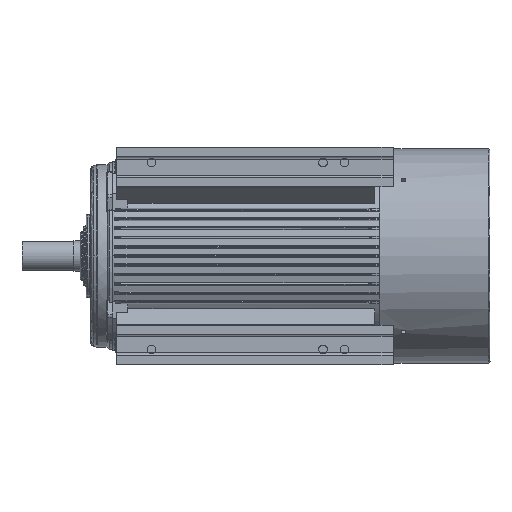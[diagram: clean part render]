
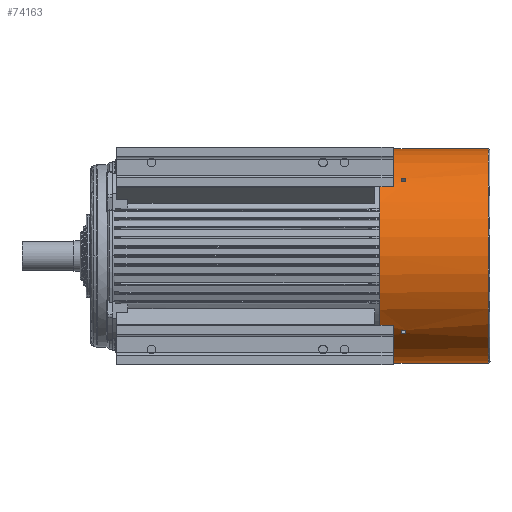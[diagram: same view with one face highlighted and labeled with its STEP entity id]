
A CAD part, front view. The second image highlights one B-rep face of the part: STEP entity #74163.
In plain terms, the highlighted cylindrical face has radius 350 mm (diameter 700 mm), a partial arc.
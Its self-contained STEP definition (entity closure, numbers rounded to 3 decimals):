
#73819=CARTESIAN_POINT('',(0.,0.,5.));
#73820=DIRECTION('',(0.,0.,-1.));
#73821=DIRECTION('',(1.,0.,0.));
#73822=AXIS2_PLACEMENT_3D('',#73819,#73820,#73821);
#73839=DIRECTION('',(0.,0.,-1.));
#73840=VECTOR('',#73839,355.);
#73841=CARTESIAN_POINT('',(-350.,0.,360.));
#73842=LINE('',#73841,#73840);
#73843=DIRECTION('',(0.,0.,-1.));
#73844=VECTOR('',#73843,15.);
#73845=CARTESIAN_POINT('',(-242.127,-252.734,290.));
#73846=LINE('',#73845,#73844);
#73847=DIRECTION('',(0.,0.,1.));
#73848=VECTOR('',#73847,15.);
#73849=CARTESIAN_POINT('',(-252.734,-242.127,275.));
#73850=LINE('',#73849,#73848);
#73851=DIRECTION('',(0.,0.,-1.));
#73852=VECTOR('',#73851,15.);
#73853=CARTESIAN_POINT('',(252.734,-242.127,290.));
#73854=LINE('',#73853,#73852);
#73855=DIRECTION('',(0.,0.,1.));
#73856=VECTOR('',#73855,15.);
#73857=CARTESIAN_POINT('',(242.127,-252.734,275.));
#73858=LINE('',#73857,#73856);
#73859=DIRECTION('',(0.,0.,-1.));
#73860=VECTOR('',#73859,355.);
#73861=CARTESIAN_POINT('',(350.,0.,360.));
#73862=LINE('',#73861,#73860);
#73884=CARTESIAN_POINT('',(0.,0.,360.));
#73885=DIRECTION('',(0.,0.,1.));
#73886=DIRECTION('',(-1.,0.,0.));
#73887=AXIS2_PLACEMENT_3D('',#73884,#73885,#73886);
#73904=CARTESIAN_POINT('',(0.,0.,
5.));
#73905=DIRECTION('',(0.,0.,-1.));
#73906=DIRECTION('',(-1.,-0.008,0.));
#73907=AXIS2_PLACEMENT_3D('',#73904,#73905,#73906);
#73927=CARTESIAN_POINT('',(0.,0.,275.));
#73928=DIRECTION('',(0.,0.,1.));
#73929=DIRECTION('',(-0.722,-0.692,0.));
#73930=AXIS2_PLACEMENT_3D('',#73927,#73928,#73929);
#73966=CARTESIAN_POINT('',(0.,0.,275.));
#73967=DIRECTION('',(0.,0.,1.));
#73968=DIRECTION('',(0.692,-0.722,0.));
#73969=AXIS2_PLACEMENT_3D('',#73966,#73967,#73968);
#73983=CARTESIAN_POINT('',(0.,0.,290.));
#73984=DIRECTION('',(0.,0.,-1.));
#73985=DIRECTION('',(-0.692,-0.722,0.));
#73986=AXIS2_PLACEMENT_3D('',#73983,#73984,#73985);
#73996=CARTESIAN_POINT('',(0.,0.,290.));
#73997=DIRECTION('',(0.,0.,-1.));
#73998=DIRECTION('',(0.722,-0.692,0.));
#73999=AXIS2_PLACEMENT_3D('',#73996,#73997,#73998);
#74040=CARTESIAN_POINT('',(-349.99,-2.674,5.));
#74042=VERTEX_POINT('',#74040);
#74043=CARTESIAN_POINT('',(350.,0.,5.));
#74044=VERTEX_POINT('',#74043);
#74067=CARTESIAN_POINT('',(-350.,0.,5.));
#74068=VERTEX_POINT('',#74067);
#74069=CARTESIAN_POINT('',(-350.,0.,360.));
#74070=VERTEX_POINT('',#74069);
#74071=CARTESIAN_POINT('',(350.,0.,360.));
#74072=VERTEX_POINT('',#74071);
#74073=CARTESIAN_POINT('',(-242.127,-252.734,290.));
#74074=CARTESIAN_POINT('',(-242.127,-252.734,275.));
#74075=VERTEX_POINT('',#74073);
#74076=VERTEX_POINT('',#74074);
#74077=CARTESIAN_POINT('',(-252.734,-242.127,275.));
#74078=VERTEX_POINT('',#74077);
#74079=CARTESIAN_POINT('',(-252.734,-242.127,290.));
#74080=VERTEX_POINT('',#74079);
#74081=CARTESIAN_POINT('',(252.734,-242.127,290.));
#74082=CARTESIAN_POINT('',(252.734,-242.127,275.));
#74083=VERTEX_POINT('',#74081);
#74084=VERTEX_POINT('',#74082);
#74085=CARTESIAN_POINT('',(242.127,-252.734,275.));
#74086=VERTEX_POINT('',#74085);
#74087=CARTESIAN_POINT('',(242.127,-252.734,290.));
#74088=VERTEX_POINT('',#74087);
#74127=CARTESIAN_POINT('',(0.,0.,0.));
#74128=DIRECTION('',(0.,0.,1.));
#74129=DIRECTION('',(1.,0.,0.));
#74130=AXIS2_PLACEMENT_3D('',#74127,#74128,#74129);
#74131=CYLINDRICAL_SURFACE('',#74130,350.);
#74133=ORIENTED_EDGE('',*,*,#74132,.F.);
#74135=ORIENTED_EDGE('',*,*,#74134,.T.);
#74137=ORIENTED_EDGE('',*,*,#74136,.T.);
#74138=ORIENTED_EDGE('',*,*,#74112,.T.);
#74140=ORIENTED_EDGE('',*,*,#74139,.T.);
#74141=EDGE_LOOP('',(#74133,#74135,#74137,#74138,#74140));
#74142=FACE_OUTER_BOUND('',#74141,.F.);
#74144=ORIENTED_EDGE('',*,*,#74143,.F.);
#74146=ORIENTED_EDGE('',*,*,#74145,.T.);
#74148=ORIENTED_EDGE('',*,*,#74147,.F.);
#74150=ORIENTED_EDGE('',*,*,#74149,.T.);
#74151=EDGE_LOOP('',(#74144,#74146,#74148,#74150));
#74152=FACE_BOUND('',#74151,.F.);
#74154=ORIENTED_EDGE('',*,*,#74153,.F.);
#74156=ORIENTED_EDGE('',*,*,#74155,.T.);
#74158=ORIENTED_EDGE('',*,*,#74157,.F.);
#74160=ORIENTED_EDGE('',*,*,#74159,.T.);
#74161=EDGE_LOOP('',(#74154,#74156,#74158,#74160));
#74162=FACE_BOUND('',#74161,.F.);
#74163=ADVANCED_FACE('',(#74142,#74152,#74162),#74131,.T.);
#73823=CIRCLE('',#73822,350.);
#73888=CIRCLE('',#73887,350.);
#73908=CIRCLE('',#73907,350.);
#73931=CIRCLE('',#73930,350.);
#73970=CIRCLE('',#73969,350.);
#73987=CIRCLE('',#73986,350.);
#74000=CIRCLE('',#73999,350.);
#74112=EDGE_CURVE('',#74044,#74042,#73823,.T.);
#74132=EDGE_CURVE('',#74070,#74068,#73842,.T.);
#74134=EDGE_CURVE('',#74070,#74072,#73888,.T.);
#74136=EDGE_CURVE('',#74072,#74044,#73862,.T.);
#74139=EDGE_CURVE('',#74042,#74068,#73908,.T.);
#74143=EDGE_CURVE('',#74075,#74076,#73846,.T.);
#74145=EDGE_CURVE('',#74075,#74080,#73987,.T.);
#74147=EDGE_CURVE('',#74078,#74080,#73850,.T.);
#74149=EDGE_CURVE('',#74078,#74076,#73931,.T.);
#74153=EDGE_CURVE('',#74083,#74084,#73854,.T.);
#74155=EDGE_CURVE('',#74083,#74088,#74000,.T.);
#74157=EDGE_CURVE('',#74086,#74088,#73858,.T.);
#74159=EDGE_CURVE('',#74086,#74084,#73970,.T.);
